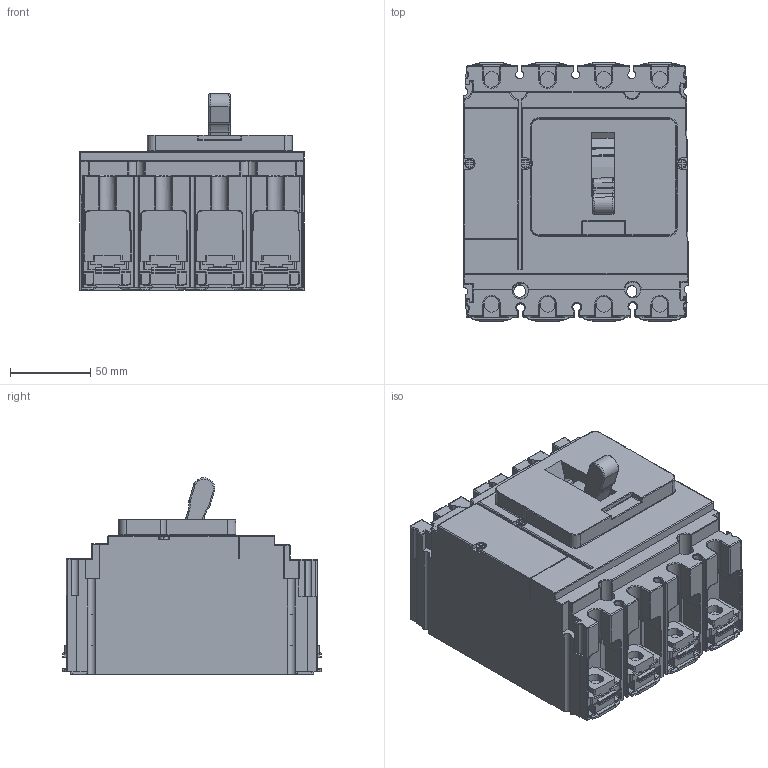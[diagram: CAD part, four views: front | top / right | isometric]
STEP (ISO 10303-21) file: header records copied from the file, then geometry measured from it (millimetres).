
FILE_DESCRIPTION((''),'2;1');
FILE_NAME('C25W42D250_3D-SIMPLIFIED_ASM','2020-12-12T14:40:22',('user.1'),('Schneider-Electric'),'CREO PARAMETRIC BY PTC INC, 2018300','CREO PARAMETRIC BY PTC INC, 2018300','');
FILE_SCHEMA(('CONFIG_CONTROL_DESIGN'));
Products named in the file (3): C25W42D250_3D-SIMPLIFIED_3; C25W42D250_ASM_3_ASM; C25W42D250_3D-SIMPLIFIED_ASM
Assembly tree (2 placements, depth 3):
  C25W42D250_3D-SIMPLIFIED_ASM
    C25W42D250_ASM_3_ASM
      C25W42D250_3D-SIMPLIFIED_3
Bounding box: 140.3 x 161.1 x 122.53 mm (x, y, z)
Volume: 1669399.9 mm3; surface area: 151526.7 mm2
Topology: 1 solids, 1 shells, 1830 faces, 5130 edges, 3248 vertices
Faces by surface type: plane 878, cylinder 676, torus 159, sphere 67, bspline 29, extrusion 16, cone 5
Entity records: 61601 total; most frequent: CARTESIAN_POINT 13992, ORIENTED_EDGE 10122, DIRECTION 10035, EDGE_CURVE 5061, AXIS2_PLACEMENT_3D 3434, VERTEX_POINT 3248, VECTOR 3167, LINE 3151
